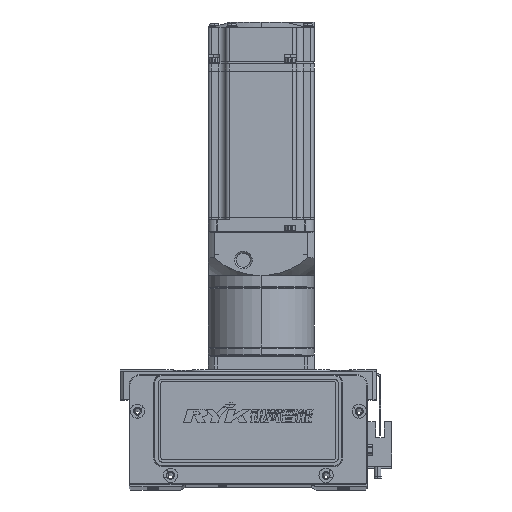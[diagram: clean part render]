
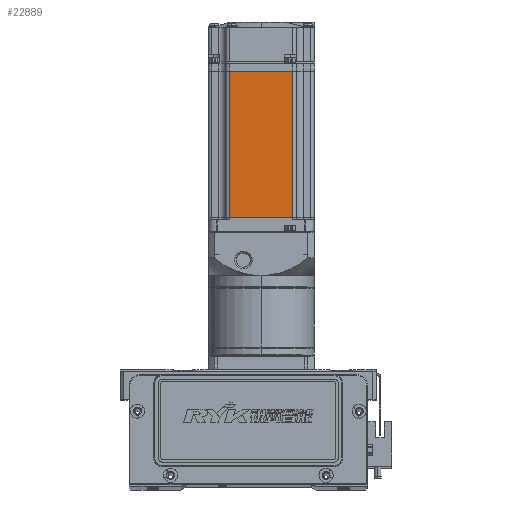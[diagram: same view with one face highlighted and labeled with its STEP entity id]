
A CAD part, top view. The second image highlights one B-rep face of the part: STEP entity #22889.
In plain terms, the highlighted planar face has unit normal (0, 0, 1).
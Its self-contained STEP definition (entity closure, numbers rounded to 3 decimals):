
#585 = DIRECTION ( 'NONE',  ( 1., 0., 0. ) ) ;
#1784 = ORIENTED_EDGE ( 'NONE', *, *, #54183, .F. ) ;
#3689 = VERTEX_POINT ( 'NONE', #63025 ) ;
#4246 = CARTESIAN_POINT ( 'NONE',  ( -90.45, 0., 30. ) ) ;
#4745 = VERTEX_POINT ( 'NONE', #58563 ) ;
#5537 = CARTESIAN_POINT ( 'NONE',  ( -7.75, 18., 30. ) ) ;
#6086 = PLANE ( 'NONE',  #48039 ) ;
#6582 = VECTOR ( 'NONE', #36281, 1000. ) ;
#15197 = DIRECTION ( 'NONE',  ( 0., -1., 0. ) ) ;
#16410 = EDGE_CURVE ( 'NONE', #4745, #61761, #55796, .T. ) ;
#18540 = EDGE_LOOP ( 'NONE', ( #1784, #36925, #51929, #54955 ) ) ;
#19367 = CARTESIAN_POINT ( 'NONE',  ( -90.45, -18., 30. ) ) ;
#20978 = EDGE_CURVE ( 'NONE', #3689, #61761, #62389, .T. ) ;
#22889 = ADVANCED_FACE ( 'NONE', ( #39018 ), #6086, .T. ) ;
#23219 = CARTESIAN_POINT ( 'NONE',  ( -6.5, -25., 30. ) ) ;
#31107 = CARTESIAN_POINT ( 'NONE',  ( -6.5, -18., 30. ) ) ;
#31441 = DIRECTION ( 'NONE',  ( -1., 0., 0. ) ) ;
#33990 = DIRECTION ( 'NONE',  ( 0., 0., 1. ) ) ;
#35672 = EDGE_CURVE ( 'NONE', #46242, #4745, #59321, .T. ) ;
#36281 = DIRECTION ( 'NONE',  ( 0., -1., 0. ) ) ;
#36925 = ORIENTED_EDGE ( 'NONE', *, *, #35672, .T. ) ;
#39018 = FACE_OUTER_BOUND ( 'NONE', #18540, .T. ) ;
#39569 = VECTOR ( 'NONE', #15197, 1000. ) ;
#42149 = CARTESIAN_POINT ( 'NONE',  ( -6.5, 18., 30. ) ) ;
#46242 = VERTEX_POINT ( 'NONE', #5537 ) ;
#48039 = AXIS2_PLACEMENT_3D ( 'NONE', #23219, #33990, #585 ) ;
#50947 = LINE ( 'NONE', #60827, #6582 ) ;
#51929 = ORIENTED_EDGE ( 'NONE', *, *, #16410, .T. ) ;
#54183 = EDGE_CURVE ( 'NONE', #46242, #3689, #50947, .T. ) ;
#54955 = ORIENTED_EDGE ( 'NONE', *, *, #20978, .F. ) ;
#55796 = LINE ( 'NONE', #4246, #39569 ) ;
#58563 = CARTESIAN_POINT ( 'NONE',  ( -90.45, 18., 30. ) ) ;
#59013 = VECTOR ( 'NONE', #69533, 1000. ) ;
#59321 = LINE ( 'NONE', #42149, #70431 ) ;
#60827 = CARTESIAN_POINT ( 'NONE',  ( -7.75, 0., 30. ) ) ;
#61761 = VERTEX_POINT ( 'NONE', #19367 ) ;
#62389 = LINE ( 'NONE', #31107, #59013 ) ;
#63025 = CARTESIAN_POINT ( 'NONE',  ( -7.75, -18., 30. ) ) ;
#69533 = DIRECTION ( 'NONE',  ( -1., 0., 0. ) ) ;
#70431 = VECTOR ( 'NONE', #31441, 1000. ) ;
